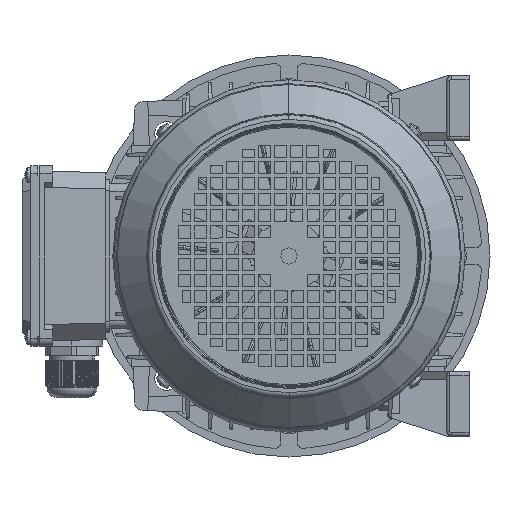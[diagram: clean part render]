
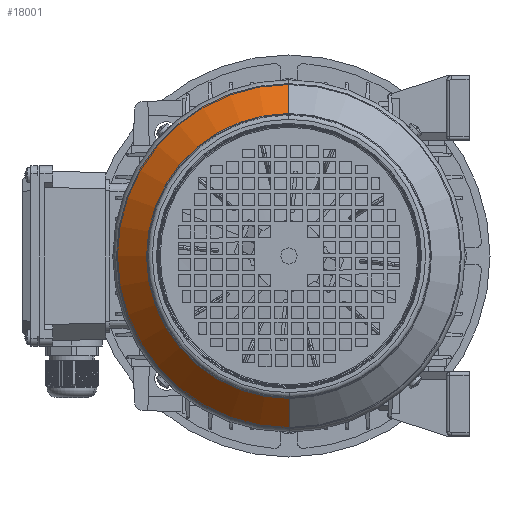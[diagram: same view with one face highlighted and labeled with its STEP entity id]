
A CAD part, left-side view. The second image highlights one B-rep face of the part: STEP entity #18001.
In plain terms, the highlighted conical face has half-angle 45 degrees and reference radius 88.586 mm.
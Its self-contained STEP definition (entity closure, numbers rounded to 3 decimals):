
#4629 = CARTESIAN_POINT ( 'NONE',  ( 171.414, 0., -88.586 ) ) ;
#12089 = CARTESIAN_POINT ( 'NONE',  ( 152.793, 0., -107.207 ) ) ;
#17394 = LINE ( 'NONE', #4629, #114577 ) ;
#18001 = ADVANCED_FACE ( 'NONE', ( #21576 ), #121011, .T. ) ;
#20292 = DIRECTION ( 'NONE',  ( 0., 0., 1. ) ) ;
#21576 = FACE_OUTER_BOUND ( 'NONE', #122227, .T. ) ;
#23552 = EDGE_CURVE ( 'NONE', #53101, #88635, #77651, .T. ) ;
#33110 = DIRECTION ( 'NONE',  ( -1., 0., 0. ) ) ;
#34475 = AXIS2_PLACEMENT_3D ( 'NONE', #45856, #33110, #20292 ) ;
#37766 = ORIENTED_EDGE ( 'NONE', *, *, #101105, .F. ) ;
#43228 = EDGE_CURVE ( 'NONE', #79944, #89739, #116151, .T. ) ;
#45856 = CARTESIAN_POINT ( 'NONE',  ( 171.414, 0., 0. ) ) ;
#46685 = DIRECTION ( 'NONE',  ( -0.707, 0., 0.707 ) ) ;
#53101 = VERTEX_POINT ( 'NONE', #12089 ) ;
#59502 = CARTESIAN_POINT ( 'NONE',  ( 171.414, 0., 88.586 ) ) ;
#61629 = VECTOR ( 'NONE', #46685, 1000. ) ;
#72258 = LINE ( 'NONE', #59502, #61629 ) ;
#77651 = CIRCLE ( 'NONE', #105213, 107.207 ) ;
#79944 = VERTEX_POINT ( 'NONE', #110208 ) ;
#80285 = AXIS2_PLACEMENT_3D ( 'NONE', #106917, #94156, #81383 ) ;
#81383 = DIRECTION ( 'NONE',  ( 0., 0., 1. ) ) ;
#81869 = CARTESIAN_POINT ( 'NONE',  ( 171.414, 0., 88.586 ) ) ;
#83167 = EDGE_CURVE ( 'NONE', #89739, #88635, #72258, .T. ) ;
#88635 = VERTEX_POINT ( 'NONE', #94997 ) ;
#89739 = VERTEX_POINT ( 'NONE', #81869 ) ;
#93474 = DIRECTION ( 'NONE',  ( 0., 0., 1. ) ) ;
#94156 = DIRECTION ( 'NONE',  ( -1., 0., 0. ) ) ;
#94997 = CARTESIAN_POINT ( 'NONE',  ( 152.793, 0., 107.207 ) ) ;
#96217 = ORIENTED_EDGE ( 'NONE', *, *, #43228, .T. ) ;
#101105 = EDGE_CURVE ( 'NONE', #79944, #53101, #17394, .T. ) ;
#101169 = ORIENTED_EDGE ( 'NONE', *, *, #83167, .T. ) ;
#105213 = AXIS2_PLACEMENT_3D ( 'NONE', #119017, #106250, #93474 ) ;
#106250 = DIRECTION ( 'NONE',  ( -1., 0., 0. ) ) ;
#106917 = CARTESIAN_POINT ( 'NONE',  ( 171.414, 0., 0. ) ) ;
#110208 = CARTESIAN_POINT ( 'NONE',  ( 171.414, 0., -88.586 ) ) ;
#114577 = VECTOR ( 'NONE', #116628, 1000. ) ;
#116151 = CIRCLE ( 'NONE', #80285, 88.586 ) ;
#116628 = DIRECTION ( 'NONE',  ( -0.707, 0., -0.707 ) ) ;
#116994 = ORIENTED_EDGE ( 'NONE', *, *, #23552, .F. ) ;
#119017 = CARTESIAN_POINT ( 'NONE',  ( 152.793, 0., 0. ) ) ;
#121011 = CONICAL_SURFACE ( 'NONE', #34475, 88.586, 0.785 ) ;
#122227 = EDGE_LOOP ( 'NONE', ( #37766, #96217, #101169, #116994 ) ) ;
